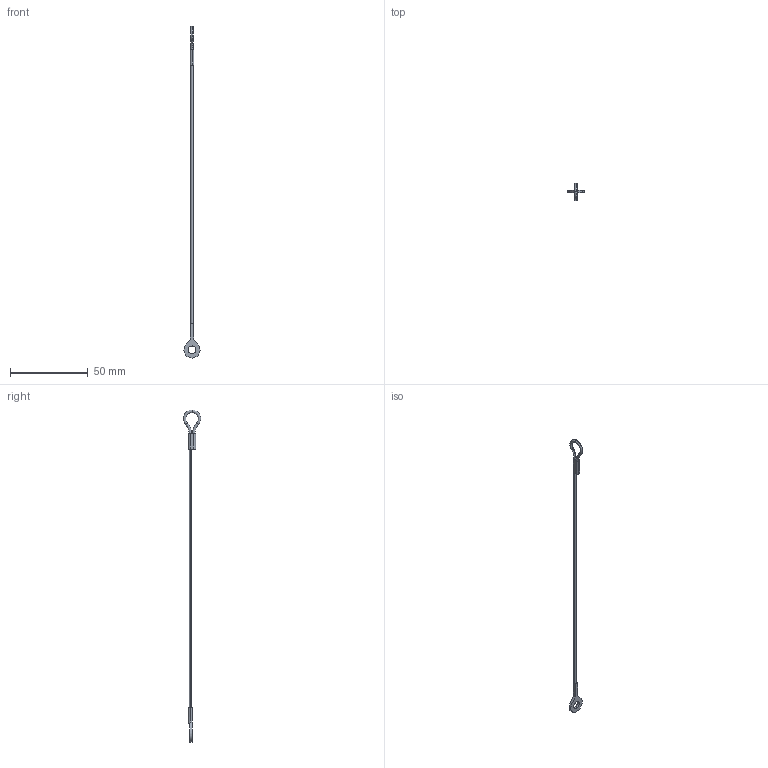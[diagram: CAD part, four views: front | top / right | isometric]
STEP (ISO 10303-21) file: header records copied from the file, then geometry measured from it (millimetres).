
FILE_DESCRIPTION (( 'STEP AP203' ), '1' );
FILE_NAME ('LA1075.I06-203N1.step', '2026-03-23T16:44:37', ( '' ), ( '' ), 'SwSTEP 2.0', 'SolidWorks 2019', '' );
FILE_SCHEMA (( 'CONFIG_CONTROL_DESIGN' ));
Length unit declared in the file: millimetre
Products named in the file (1): LA1075.I06-203N1
Bounding box: 10.41 x 11.16 x 214 mm (x, y, z)
Volume: 664.2 mm3; surface area: 1457.8 mm2
Topology: 1 solids, 1 shells, 32 faces, 74 edges, 46 vertices
Faces by surface type: plane 14, cylinder 10, torus 8
Entity records: 1003 total; most frequent: DIRECTION 180, CARTESIAN_POINT 153, ORIENTED_EDGE 148, EDGE_CURVE 74, AXIS2_PLACEMENT_3D 73, VERTEX_POINT 46, CIRCLE 40, EDGE_LOOP 38
